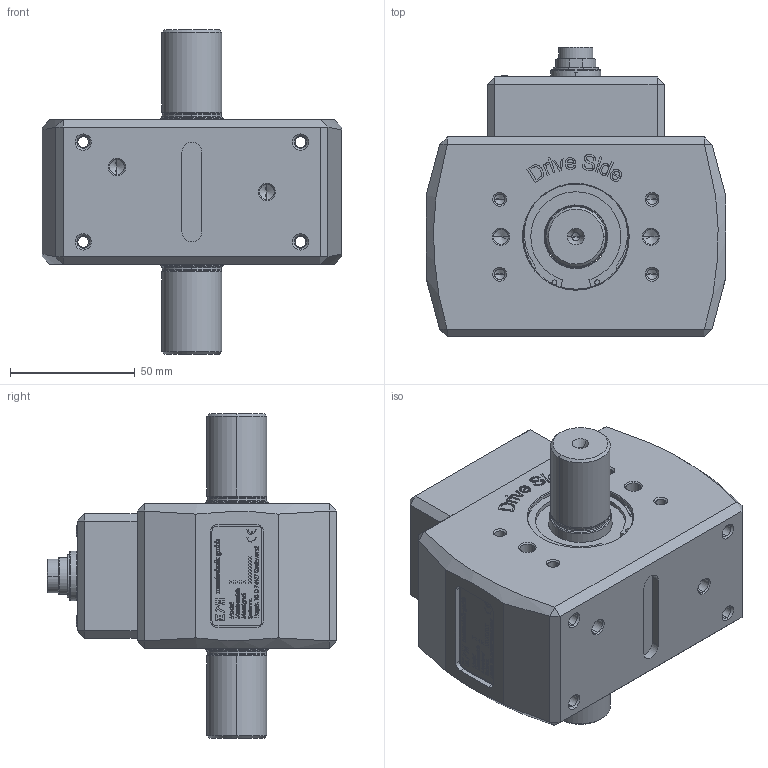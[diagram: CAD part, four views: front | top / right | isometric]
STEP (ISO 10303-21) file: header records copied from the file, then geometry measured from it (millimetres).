
FILE_DESCRIPTION (( 'STEP AP214' ), '1' );
FILE_NAME ('DRBL-III.STEP', '2023-06-14T09:07:24', ( '' ), ( '' ), 'SwSTEP 2.0', 'SolidWorks 2023', '' );
FILE_SCHEMA (( 'AUTOMOTIVE_DESIGN' ));
Length unit declared in the file: millimetre
Products named in the file (1): DRBL-III
Bounding box: 120.12 x 116 x 130 mm (x, y, z)
Volume: 516394.5 mm3; surface area: 101515.6 mm2
Topology: 13 solids, 13 shells, 3199 faces, 8435 edges, 5512 vertices
Faces by surface type: plane 1516, bspline 1135, cylinder 368, cone 155, torus 25
Entity records: 146114 total; most frequent: CARTESIAN_POINT 74132, ORIENTED_EDGE 16742, DIRECTION 11199, EDGE_CURVE 8371, VERTEX_POINT 5512, LINE 5085, VECTOR 5085, EDGE_LOOP 3555
